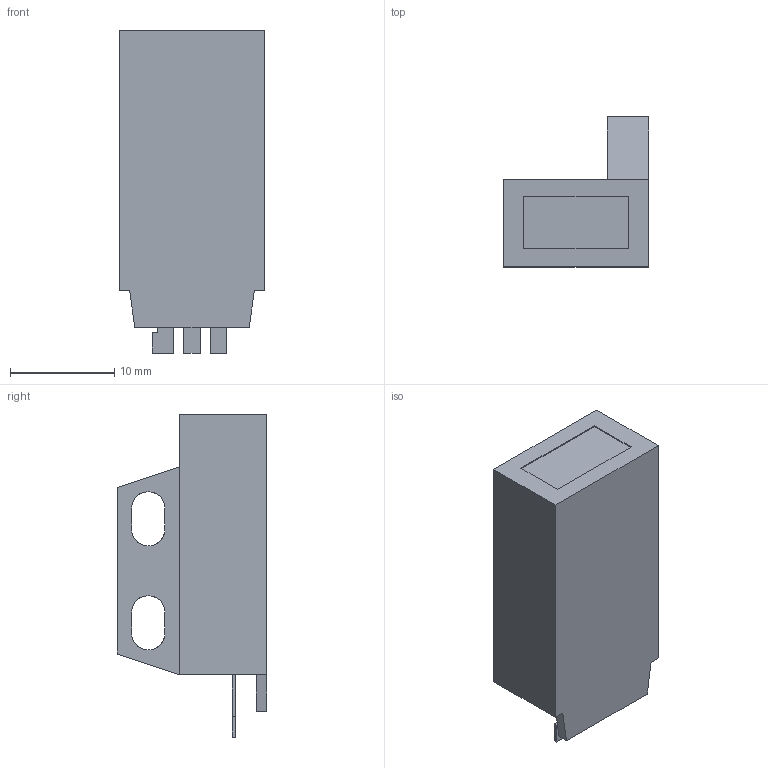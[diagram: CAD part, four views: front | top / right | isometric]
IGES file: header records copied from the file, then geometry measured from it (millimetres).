
Start section: SolidWorks IGES FILE using analytic representation for surfaces
Global section: file name: \\intra-srv04\開発データ\CAD_Data\CAD委員会\3D電子ｶﾀﾛｸﾞ\製品カタログ（新）\0_IGES\PM2-LL10.IGS,41HSolidWorks 2004; native system: by SolidWorks Corporation; preprocessor: Version 5.3; author: yk0651; date: 050906.105342; units: millimetre
Bounding box: 14 x 14.4 x 31 mm (x, y, z)
Surface area: 1821.7 mm2 (no closed solid volume)
Topology: 0 solids, 0 shells, 49 faces, 426 edges, 426 vertices
Faces by surface type: bspline 41, revolution 8
